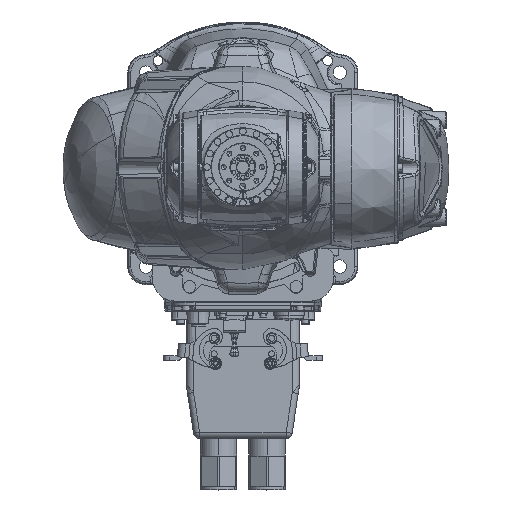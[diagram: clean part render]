
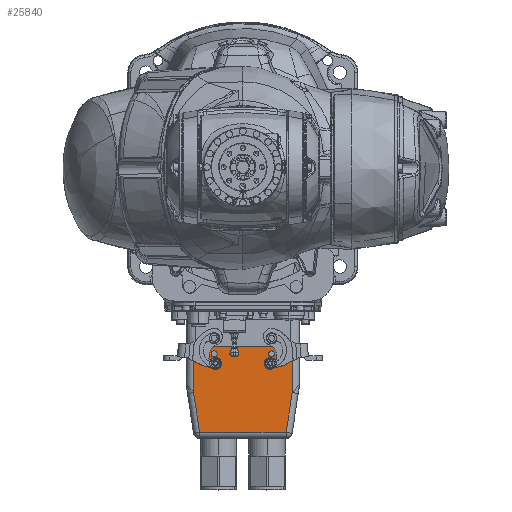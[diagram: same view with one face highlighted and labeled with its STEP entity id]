
A CAD part, top view. The second image highlights one B-rep face of the part: STEP entity #25840.
In plain terms, the highlighted planar face has unit normal (0, 0, 1).
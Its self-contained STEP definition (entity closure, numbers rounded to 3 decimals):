
#25749=CARTESIAN_POINT('Axis2P3D Location',(0.,-146.,61.5)) ;
#25754=CARTESIAN_POINT('Line Origine',(40.75,-165.069,61.5)) ;
#25758=CARTESIAN_POINT('Vertex',(40.75,-184.137,61.5)) ;
#25760=CARTESIAN_POINT('Vertex',(40.75,-146.,61.5)) ;
#25763=CARTESIAN_POINT('Line Origine',(0.,-146.,61.5)) ;
#25767=CARTESIAN_POINT('Vertex',(-40.75,-146.,61.5)) ;
#25770=CARTESIAN_POINT('Line Origine',(-40.75,-165.069,61.5)) ;
#25774=CARTESIAN_POINT('Vertex',(-40.75,-184.137,61.5)) ;
#25777=CARTESIAN_POINT('Line Origine',(-38.229,-200.569,61.5)) ;
#25781=CARTESIAN_POINT('Vertex',(-35.709,-217.,61.5)) ;
#25784=CARTESIAN_POINT('Line Origine',(0.,-217.,61.5)) ;
#25788=CARTESIAN_POINT('Vertex',(35.709,-217.,61.5)) ;
#25791=CARTESIAN_POINT('Line Origine',(38.229,-200.569,61.5)) ;
#25804=CARTESIAN_POINT('Axis2P3D Location',(-23.75,-152.2,61.5)) ;
#25808=CARTESIAN_POINT('Vertex',(-21.25,-152.2,61.5)) ;
#25810=CARTESIAN_POINT('Vertex',(-26.25,-152.2,61.5)) ;
#25813=CARTESIAN_POINT('Axis2P3D Location',(-23.75,-152.2,61.5)) ;
#25822=CARTESIAN_POINT('Axis2P3D Location',(23.75,-152.2,61.5)) ;
#25826=CARTESIAN_POINT('Vertex',(21.25,-152.2,61.5)) ;
#25828=CARTESIAN_POINT('Vertex',(26.25,-152.2,61.5)) ;
#25831=CARTESIAN_POINT('Axis2P3D Location',(23.75,-152.2,61.5)) ;
#25750=DIRECTION('Axis2P3D Direction',(0.,0.,1.)) ;
#25751=DIRECTION('Axis2P3D XDirection',(-1.,0.,0.)) ;
#25755=DIRECTION('Vector Direction',(0.,1.,0.)) ;
#25764=DIRECTION('Vector Direction',(-1.,0.,0.)) ;
#25771=DIRECTION('Vector Direction',(0.,-1.,0.)) ;
#25778=DIRECTION('Vector Direction',(-0.152,0.988,0.)) ;
#25785=DIRECTION('Vector Direction',(1.,0.,0.)) ;
#25792=DIRECTION('Vector Direction',(-0.152,-0.988,0.)) ;
#25805=DIRECTION('Axis2P3D Direction',(0.,0.,1.)) ;
#25814=DIRECTION('Axis2P3D Direction',(0.,0.,1.)) ;
#25823=DIRECTION('Axis2P3D Direction',(0.,0.,1.)) ;
#25832=DIRECTION('Axis2P3D Direction',(0.,0.,1.)) ;
#25752=AXIS2_PLACEMENT_3D('Plane Axis2P3D',#25749,#25750,#25751) ;
#25806=AXIS2_PLACEMENT_3D('Circle Axis2P3D',#25804,#25805,$) ;
#25815=AXIS2_PLACEMENT_3D('Circle Axis2P3D',#25813,#25814,$) ;
#25824=AXIS2_PLACEMENT_3D('Circle Axis2P3D',#25822,#25823,$) ;
#25833=AXIS2_PLACEMENT_3D('Circle Axis2P3D',#25831,#25832,$) ;
#25797=ORIENTED_EDGE('',*,*,#25762,.T.) ;
#25798=ORIENTED_EDGE('',*,*,#25769,.T.) ;
#25799=ORIENTED_EDGE('',*,*,#25776,.T.) ;
#25800=ORIENTED_EDGE('',*,*,#25783,.T.) ;
#25801=ORIENTED_EDGE('',*,*,#25790,.T.) ;
#25802=ORIENTED_EDGE('',*,*,#25795,.T.) ;
#25819=ORIENTED_EDGE('',*,*,#25812,.F.) ;
#25820=ORIENTED_EDGE('',*,*,#25817,.F.) ;
#25837=ORIENTED_EDGE('',*,*,#25830,.F.) ;
#25838=ORIENTED_EDGE('',*,*,#25835,.F.) ;
#25821=FACE_BOUND('',#25818,.T.) ;
#25839=FACE_BOUND('',#25836,.T.) ;
#25756=VECTOR('Line Direction',#25755,1.) ;
#25765=VECTOR('Line Direction',#25764,1.) ;
#25772=VECTOR('Line Direction',#25771,1.) ;
#25779=VECTOR('Line Direction',#25778,1.) ;
#25786=VECTOR('Line Direction',#25785,1.) ;
#25793=VECTOR('Line Direction',#25792,1.) ;
#25840=ADVANCED_FACE('COVER',(#25803,#25821,#25839),#25753,.T.) ;
#25807=CIRCLE('generated circle',#25806,2.5) ;
#25816=CIRCLE('generated circle',#25815,2.5) ;
#25825=CIRCLE('generated circle',#25824,2.5) ;
#25834=CIRCLE('generated circle',#25833,2.5) ;
#25762=EDGE_CURVE('',#25759,#25761,#25757,.T.) ;
#25769=EDGE_CURVE('',#25761,#25768,#25766,.T.) ;
#25776=EDGE_CURVE('',#25768,#25775,#25773,.T.) ;
#25783=EDGE_CURVE('',#25775,#25782,#25780,.F.) ;
#25790=EDGE_CURVE('',#25782,#25789,#25787,.T.) ;
#25795=EDGE_CURVE('',#25789,#25759,#25794,.F.) ;
#25812=EDGE_CURVE('',#25809,#25811,#25807,.T.) ;
#25817=EDGE_CURVE('',#25811,#25809,#25816,.T.) ;
#25830=EDGE_CURVE('',#25827,#25829,#25825,.T.) ;
#25835=EDGE_CURVE('',#25829,#25827,#25834,.T.) ;
#25796=EDGE_LOOP('',(#25797,#25798,#25799,#25800,#25801,#25802)) ;
#25818=EDGE_LOOP('',(#25819,#25820)) ;
#25836=EDGE_LOOP('',(#25837,#25838)) ;
#25803=FACE_OUTER_BOUND('',#25796,.T.) ;
#25757=LINE('Line',#25754,#25756) ;
#25766=LINE('Line',#25763,#25765) ;
#25773=LINE('Line',#25770,#25772) ;
#25780=LINE('Line',#25777,#25779) ;
#25787=LINE('Line',#25784,#25786) ;
#25794=LINE('Line',#25791,#25793) ;
#25753=PLANE('',#25752) ;
#25759=VERTEX_POINT('',#25758) ;
#25761=VERTEX_POINT('',#25760) ;
#25768=VERTEX_POINT('',#25767) ;
#25775=VERTEX_POINT('',#25774) ;
#25782=VERTEX_POINT('',#25781) ;
#25789=VERTEX_POINT('',#25788) ;
#25809=VERTEX_POINT('',#25808) ;
#25811=VERTEX_POINT('',#25810) ;
#25827=VERTEX_POINT('',#25826) ;
#25829=VERTEX_POINT('',#25828) ;
